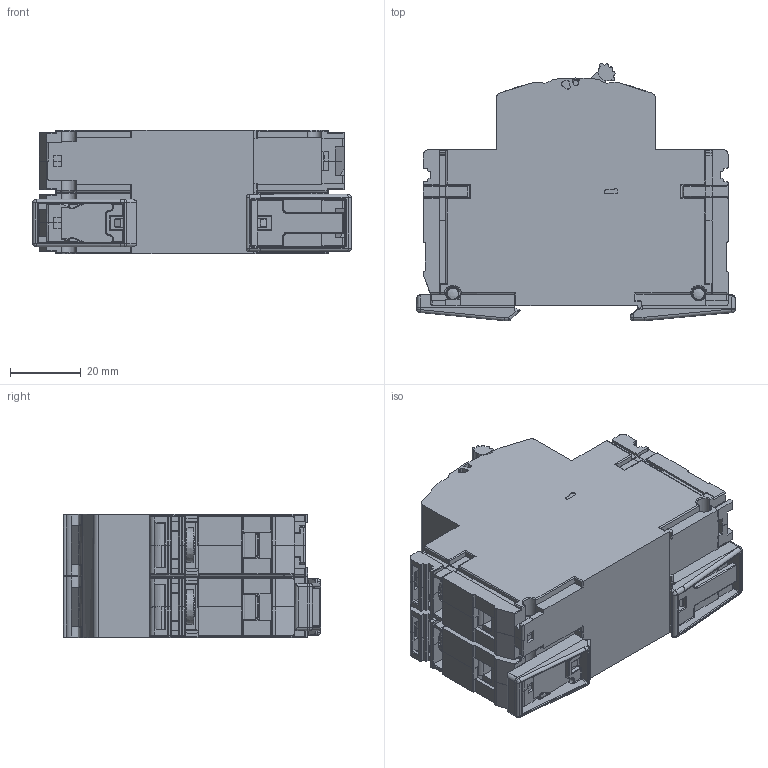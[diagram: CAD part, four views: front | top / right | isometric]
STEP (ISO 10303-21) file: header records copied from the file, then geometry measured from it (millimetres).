
FILE_DESCRIPTION (( 'STEP AP214' ), '1' );
FILE_NAME ('APN-2_zj2.step', '2013-06-24T11:28:23', ( 'Siemens' ), ( 'Siemens' ), 'SwSTEP 2.0', 'SolidWorks 2011', '' );
FILE_SCHEMA (( 'AUTOMOTIVE_DESIGN' ));
Length unit declared in the file: millimetre
Products named in the file (1): APN-2_zj2
Bounding box: 90.21 x 72.92 x 35.08 mm (x, y, z)
Volume: 151543.3 mm3; surface area: 34698.2 mm2
Topology: 1 solids, 7 shells, 3166 faces, 8981 edges, 5711 vertices
Faces by surface type: plane 1726, cylinder 982, torus 193, bspline 139, cone 69, sphere 57
Entity records: 154454 total; most frequent: CARTESIAN_POINT 43603, ORIENTED_EDGE 17782, DIRECTION 12889, EDGE_CURVE 8891, VERTEX_POINT 5708, LINE 5495, VECTOR 5495, AXIS2_PLACEMENT_3D 3697
